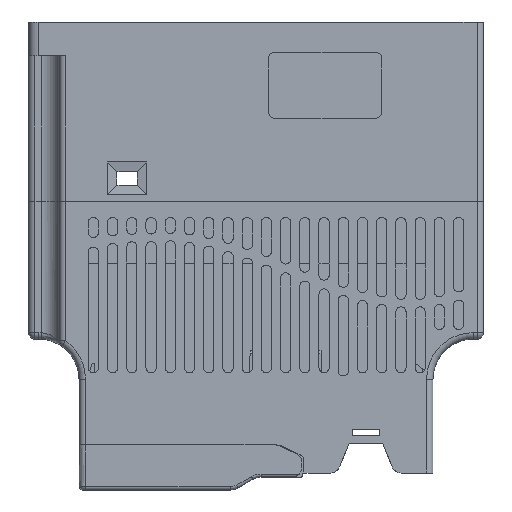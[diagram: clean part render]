
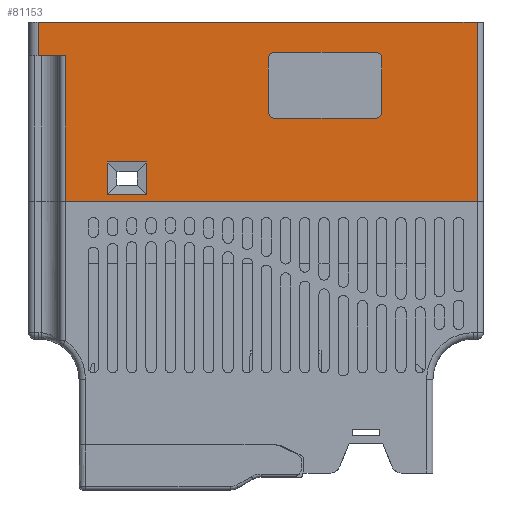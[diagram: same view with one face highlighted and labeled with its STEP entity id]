
A CAD part, front view. The second image highlights one B-rep face of the part: STEP entity #81153.
In plain terms, the highlighted planar face has unit normal (0, 1, 0).
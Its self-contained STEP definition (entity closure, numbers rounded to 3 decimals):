
#70540=DIRECTION('',(0.,0.,1.));
#70541=VECTOR('',#70540,56.);
#70542=CARTESIAN_POINT('',(62.75,-36.,61.5));
#70543=LINE('',#70542,#70541);
#70548=DIRECTION('',(-1.,0.,0.));
#70549=VECTOR('',#70548,128.495);
#70550=CARTESIAN_POINT('',(62.75,-36.,61.5));
#70551=LINE('',#70550,#70549);
#70552=CARTESIAN_POINT('',(-0.45,-36.,106.));
#70553=DIRECTION('',(0.,-1.,0.));
#70554=DIRECTION('',(0.,0.,1.));
#70555=AXIS2_PLACEMENT_3D('',#70552,#70553,#70554);
#70557=CARTESIAN_POINT('',(31.05,-36.,106.));
#70558=DIRECTION('',(0.,-1.,0.));
#70559=DIRECTION('',(1.,0.,0.));
#70560=AXIS2_PLACEMENT_3D('',#70557,#70558,#70559);
#70562=CARTESIAN_POINT('',(31.05,-36.,89.5));
#70563=DIRECTION('',(0.,-1.,0.));
#70564=DIRECTION('',(0.,0.,-1.));
#70565=AXIS2_PLACEMENT_3D('',#70562,#70563,#70564);
#70567=CARTESIAN_POINT('',(-0.45,-36.,89.5));
#70568=DIRECTION('',(0.,-1.,0.));
#70569=DIRECTION('',(-1.,0.,0.));
#70570=AXIS2_PLACEMENT_3D('',#70567,#70568,#70569);
#70576=DIRECTION('',(0.,0.,-1.));
#70577=VECTOR('',#70576,10.5);
#70578=CARTESIAN_POINT('',(-74.25,-36.,117.5));
#70579=LINE('',#70578,#70577);
#70892=DIRECTION('',(1.,0.,0.));
#70893=VECTOR('',#70892,137.);
#70894=CARTESIAN_POINT('',(-74.25,-36.,117.5));
#70895=LINE('',#70894,#70893);
#76181=DIRECTION('',(1.,0.,0.));
#76182=VECTOR('',#76181,8.505);
#76183=CARTESIAN_POINT('',(-74.25,-36.,107.));
#76184=LINE('',#76183,#76182);
#76232=DIRECTION('',(0.,0.,-1.));
#76233=VECTOR('',#76232,45.5);
#76234=CARTESIAN_POINT('',(-65.745,-36.,107.));
#76235=LINE('',#76234,#76233);
#76444=DIRECTION('',(1.,0.,0.));
#76445=VECTOR('',#76444,12.293);
#76446=CARTESIAN_POINT('',(-52.646,-36.,73.8));
#76447=LINE('',#76446,#76445);
#76452=DIRECTION('',(0.,0.,-1.));
#76453=VECTOR('',#76452,10.3);
#76454=CARTESIAN_POINT('',(-40.354,-36.,73.8));
#76455=LINE('',#76454,#76453);
#76464=DIRECTION('',(-1.,0.,0.));
#76465=VECTOR('',#76464,12.293);
#76466=CARTESIAN_POINT('',(-40.354,-36.,63.5));
#76467=LINE('',#76466,#76465);
#76476=DIRECTION('',(0.,0.,1.));
#76477=VECTOR('',#76476,10.3);
#76478=CARTESIAN_POINT('',(-52.646,-36.,63.5));
#76479=LINE('',#76478,#76477);
#78439=DIRECTION('',(0.,0.,1.));
#78440=VECTOR('',#78439,16.5);
#78441=CARTESIAN_POINT('',(-2.45,-36.,89.5));
#78442=LINE('',#78441,#78440);
#78451=DIRECTION('',(-1.,0.,0.));
#78452=VECTOR('',#78451,31.5);
#78453=CARTESIAN_POINT('',(31.05,-36.,87.5));
#78454=LINE('',#78453,#78452);
#78463=DIRECTION('',(0.,0.,-1.));
#78464=VECTOR('',#78463,16.5);
#78465=CARTESIAN_POINT('',(33.05,-36.,106.));
#78466=LINE('',#78465,#78464);
#78475=DIRECTION('',(1.,0.,0.));
#78476=VECTOR('',#78475,31.5);
#78477=CARTESIAN_POINT('',(-0.45,-36.,108.));
#78478=LINE('',#78477,#78476);
#78610=CARTESIAN_POINT('',(62.75,-36.,61.5));
#78611=VERTEX_POINT('',#78610);
#78612=CARTESIAN_POINT('',(-65.745,-36.,61.5));
#78613=VERTEX_POINT('',#78612);
#78874=CARTESIAN_POINT('',(62.75,-36.,117.5));
#78875=VERTEX_POINT('',#78874);
#78876=CARTESIAN_POINT('',(-74.25,-36.,117.5));
#78877=CARTESIAN_POINT('',(-74.25,-36.,107.));
#78878=VERTEX_POINT('',#78876);
#78879=VERTEX_POINT('',#78877);
#78880=CARTESIAN_POINT('',(-65.745,-36.,107.));
#78881=VERTEX_POINT('',#78880);
#78882=CARTESIAN_POINT('',(-40.354,-36.,63.5));
#78883=CARTESIAN_POINT('',(-52.646,-36.,63.5));
#78884=VERTEX_POINT('',#78882);
#78885=VERTEX_POINT('',#78883);
#78886=CARTESIAN_POINT('',(-52.646,-36.,73.8));
#78887=VERTEX_POINT('',#78886);
#78888=CARTESIAN_POINT('',(-40.354,-36.,73.8));
#78889=VERTEX_POINT('',#78888);
#78890=CARTESIAN_POINT('',(-0.45,-36.,108.));
#78891=CARTESIAN_POINT('',(-2.45,-36.,106.));
#78892=VERTEX_POINT('',#78890);
#78893=VERTEX_POINT('',#78891);
#78894=CARTESIAN_POINT('',(31.05,-36.,108.));
#78895=VERTEX_POINT('',#78894);
#78896=CARTESIAN_POINT('',(33.05,-36.,106.));
#78897=VERTEX_POINT('',#78896);
#78898=CARTESIAN_POINT('',(33.05,-36.,89.5));
#78899=VERTEX_POINT('',#78898);
#78900=CARTESIAN_POINT('',(31.05,-36.,87.5));
#78901=VERTEX_POINT('',#78900);
#78902=CARTESIAN_POINT('',(-0.45,-36.,87.5));
#78903=VERTEX_POINT('',#78902);
#78904=CARTESIAN_POINT('',(-2.45,-36.,89.5));
#78905=VERTEX_POINT('',#78904);
#81108=CARTESIAN_POINT('',(-5.75,-36.,89.5));
#81109=DIRECTION('',(0.,1.,0.));
#81110=DIRECTION('',(0.,0.,1.));
#81111=AXIS2_PLACEMENT_3D('',#81108,#81109,#81110);
#81112=PLANE('',#81111);
#81114=ORIENTED_EDGE('',*,*,#81113,.T.);
#81116=ORIENTED_EDGE('',*,*,#81115,.T.);
#81118=ORIENTED_EDGE('',*,*,#81117,.T.);
#81119=ORIENTED_EDGE('',*,*,#80715,.F.);
#81120=ORIENTED_EDGE('',*,*,#81099,.T.);
#81122=ORIENTED_EDGE('',*,*,#81121,.F.);
#81123=EDGE_LOOP('',(#81114,#81116,#81118,#81119,#81120,#81122));
#81124=FACE_OUTER_BOUND('',#81123,.F.);
#81126=ORIENTED_EDGE('',*,*,#81125,.T.);
#81128=ORIENTED_EDGE('',*,*,#81127,.T.);
#81130=ORIENTED_EDGE('',*,*,#81129,.T.);
#81132=ORIENTED_EDGE('',*,*,#81131,.T.);
#81133=EDGE_LOOP('',(#81126,#81128,#81130,#81132));
#81134=FACE_BOUND('',#81133,.F.);
#81136=ORIENTED_EDGE('',*,*,#81135,.F.);
#81138=ORIENTED_EDGE('',*,*,#81137,.T.);
#81140=ORIENTED_EDGE('',*,*,#81139,.F.);
#81142=ORIENTED_EDGE('',*,*,#81141,.T.);
#81144=ORIENTED_EDGE('',*,*,#81143,.F.);
#81146=ORIENTED_EDGE('',*,*,#81145,.T.);
#81148=ORIENTED_EDGE('',*,*,#81147,.F.);
#81150=ORIENTED_EDGE('',*,*,#81149,.T.);
#81151=EDGE_LOOP('',(#81136,#81138,#81140,#81142,#81144,#81146,#81148,#81150));
#81152=FACE_BOUND('',#81151,.F.);
#70556=CIRCLE('',#70555,2.);
#70561=CIRCLE('',#70560,2.);
#70566=CIRCLE('',#70565,2.);
#70571=CIRCLE('',#70570,2.);
#80715=EDGE_CURVE('',#78611,#78613,#70551,.T.);
#81099=EDGE_CURVE('',#78611,#78875,#70543,.T.);
#81113=EDGE_CURVE('',#78878,#78879,#70579,.T.);
#81115=EDGE_CURVE('',#78879,#78881,#76184,.T.);
#81117=EDGE_CURVE('',#78881,#78613,#76235,.T.);
#81121=EDGE_CURVE('',#78878,#78875,#70895,.T.);
#81125=EDGE_CURVE('',#78884,#78885,#76467,.T.);
#81127=EDGE_CURVE('',#78885,#78887,#76479,.T.);
#81129=EDGE_CURVE('',#78887,#78889,#76447,.T.);
#81131=EDGE_CURVE('',#78889,#78884,#76455,.T.);
#81135=EDGE_CURVE('',#78892,#78893,#70556,.T.);
#81137=EDGE_CURVE('',#78892,#78895,#78478,.T.);
#81139=EDGE_CURVE('',#78897,#78895,#70561,.T.);
#81141=EDGE_CURVE('',#78897,#78899,#78466,.T.);
#81143=EDGE_CURVE('',#78901,#78899,#70566,.T.);
#81145=EDGE_CURVE('',#78901,#78903,#78454,.T.);
#81147=EDGE_CURVE('',#78905,#78903,#70571,.T.);
#81149=EDGE_CURVE('',#78905,#78893,#78442,.T.);
#81153=ADVANCED_FACE('',(#81124,#81134,#81152),#81112,.T.);
